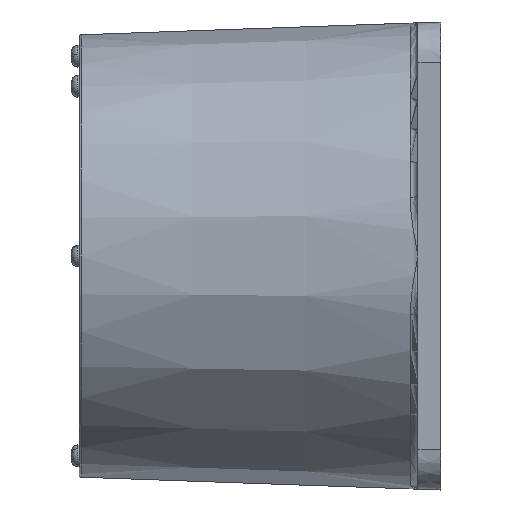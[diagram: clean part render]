
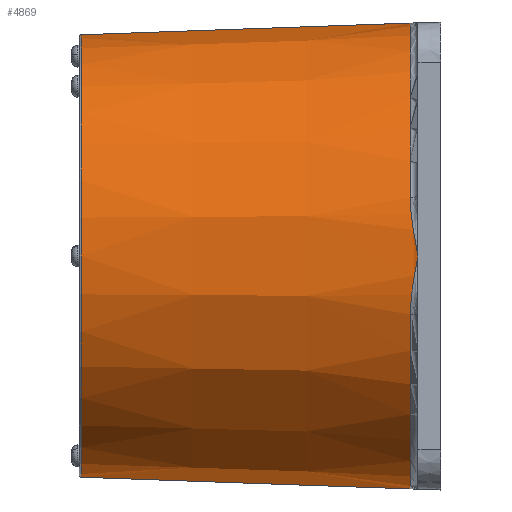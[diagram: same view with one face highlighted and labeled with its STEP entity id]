
A CAD part, left-side view. The second image highlights one B-rep face of the part: STEP entity #4869.
In plain terms, the highlighted conical face has half-angle 2.033 degrees and reference radius 58.25 mm.
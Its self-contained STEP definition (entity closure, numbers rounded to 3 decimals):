
#26 = DIRECTION ( 'NONE',  ( 0., 0., 1. ) ) ;
#300 = DIRECTION ( 'NONE',  ( 0., -1., 0. ) ) ;
#391 = CARTESIAN_POINT ( 'NONE',  ( 0., 7.629, -57.979 ) ) ;
#668 = EDGE_CURVE ( 'NONE', #4475, #5323, #2993, .T. ) ;
#734 = CARTESIAN_POINT ( 'NONE',  ( -57.379, 7.161, 8.523 ) ) ;
#866 = CARTESIAN_POINT ( 'NONE',  ( -57.862, 6.616, -4.877 ) ) ;
#930 = AXIS2_PLACEMENT_3D ( 'NONE', #2512, #5836, #3420 ) ;
#1180 = CARTESIAN_POINT ( 'NONE',  ( 0., 89.518, 0. ) ) ;
#1361 = B_SPLINE_CURVE_WITH_KNOTS ( 'NONE', 3,
 ( #1784, #1705, #6761, #4489, #3914, #3336, #6686, #3406, #4565, #734, #5649, #2800, #2944, #3376 ),
 .UNSPECIFIED., .F., .F.,
 ( 4, 2, 2, 2, 2, 2, 4 ),
 ( 0., 0.001, 0.002, 0.004, 0.007, 0.011, 0.015 ),
 .UNSPECIFIED. ) ;
#1428 = ORIENTED_EDGE ( 'NONE', *, *, #3417, .T. ) ;
#1636 = DIRECTION ( 'NONE',  ( 0., -0.999, -0.035 ) ) ;
#1705 = CARTESIAN_POINT ( 'NONE',  ( -58.046, 5.757, 0.304 ) ) ;
#1718 = CARTESIAN_POINT ( 'NONE',  ( 0., 0., 58.25 ) ) ;
#1784 = CARTESIAN_POINT ( 'NONE',  ( -58.048, 5.7, 0. ) ) ;
#1806 = CARTESIAN_POINT ( 'NONE',  ( -57.18, 7.32, -9.74 ) ) ;
#1844 = VERTEX_POINT ( 'NONE', #5249 ) ;
#1855 = ORIENTED_EDGE ( 'NONE', *, *, #3064, .F. ) ;
#1875 = EDGE_CURVE ( 'NONE', #5323, #4335, #2281, .T. ) ;
#2124 = ORIENTED_EDGE ( 'NONE', *, *, #2705, .T. ) ;
#2127 = DIRECTION ( 'NONE',  ( 0., 1., 0. ) ) ;
#2281 = B_SPLINE_CURVE_WITH_KNOTS ( 'NONE', 3,
 ( #6892, #4050, #3577, #1806, #6259, #866, #4012, #2501 ),
 .UNSPECIFIED., .F., .F.,
 ( 4, 2, 2, 4 ),
 ( 0., 0.004, 0.007, 0.015 ),
 .UNSPECIFIED. ) ;
#2293 = ORIENTED_EDGE ( 'NONE', *, *, #4936, .T. ) ;
#2501 = CARTESIAN_POINT ( 'NONE',  ( -58.048, 5.7, 0. ) ) ;
#2512 = CARTESIAN_POINT ( 'NONE',  ( 0., 0., 0. ) ) ;
#2705 = EDGE_CURVE ( 'NONE', #4335, #3854, #1361, .T. ) ;
#2782 = AXIS2_PLACEMENT_3D ( 'NONE', #1180, #300, #2880 ) ;
#2800 = CARTESIAN_POINT ( 'NONE',  ( -56.703, 7.553, 12.174 ) ) ;
#2859 = ORIENTED_EDGE ( 'NONE', *, *, #5236, .T. ) ;
#2880 = DIRECTION ( 'NONE',  ( 0., 0., -1. ) ) ;
#2944 = CARTESIAN_POINT ( 'NONE',  ( -56.427, 7.629, 13.384 ) ) ;
#2993 = CIRCLE ( 'NONE', #3570, 57.979 ) ;
#2995 = AXIS2_PLACEMENT_3D ( 'NONE', #4905, #5953, #6025 ) ;
#3064 = EDGE_CURVE ( 'NONE', #5833, #6798, #5020, .T. ) ;
#3336 = CARTESIAN_POINT ( 'NONE',  ( -57.983, 6.156, 2.441 ) ) ;
#3376 = CARTESIAN_POINT ( 'NONE',  ( -56.113, 7.629, 14.591 ) ) ;
#3406 = CARTESIAN_POINT ( 'NONE',  ( -57.824, 6.593, 4.877 ) ) ;
#3417 = EDGE_CURVE ( 'NONE', #3854, #6798, #6459, .T. ) ;
#3420 = DIRECTION ( 'NONE',  ( 0., 0., 1. ) ) ;
#3570 = AXIS2_PLACEMENT_3D ( 'NONE', #6526, #2127, #26 ) ;
#3577 = CARTESIAN_POINT ( 'NONE',  ( -56.703, 7.553, -12.174 ) ) ;
#3826 = CARTESIAN_POINT ( 'NONE',  ( 0., 89.518, 55.073 ) ) ;
#3854 = VERTEX_POINT ( 'NONE', #4283 ) ;
#3914 = CARTESIAN_POINT ( 'NONE',  ( -58.018, 5.987, 1.527 ) ) ;
#4012 = CARTESIAN_POINT ( 'NONE',  ( -58.031, 6.161, -2.445 ) ) ;
#4050 = CARTESIAN_POINT ( 'NONE',  ( -56.427, 7.629, -13.384 ) ) ;
#4283 = CARTESIAN_POINT ( 'NONE',  ( -56.113, 7.629, 14.591 ) ) ;
#4319 = CARTESIAN_POINT ( 'NONE',  ( 0., 7.629, 57.979 ) ) ;
#4335 = VERTEX_POINT ( 'NONE', #5571 ) ;
#4475 = VERTEX_POINT ( 'NONE', #391 ) ;
#4487 = LINE ( 'NONE', #6587, #7044 ) ;
#4489 = CARTESIAN_POINT ( 'NONE',  ( -58.027, 5.93, 1.222 ) ) ;
#4565 = CARTESIAN_POINT ( 'NONE',  ( -57.701, 6.798, 6.092 ) ) ;
#4869 = ADVANCED_FACE ( 'NONE', ( #6174 ), #5329, .T. ) ;
#4905 = CARTESIAN_POINT ( 'NONE',  ( 0., 7.629, 0. ) ) ;
#4936 = EDGE_CURVE ( 'NONE', #5833, #1844, #5901, .T. ) ;
#5020 = LINE ( 'NONE', #1718, #5092 ) ;
#5092 = VECTOR ( 'NONE', #6139, 1000. ) ;
#5236 = EDGE_CURVE ( 'NONE', #1844, #4475, #4487, .T. ) ;
#5249 = CARTESIAN_POINT ( 'NONE',  ( 0., 89.518, -55.073 ) ) ;
#5323 = VERTEX_POINT ( 'NONE', #6758 ) ;
#5329 = CONICAL_SURFACE ( 'NONE', #930, 58.25, 0.035 ) ;
#5571 = CARTESIAN_POINT ( 'NONE',  ( -58.048, 5.7, 0. ) ) ;
#5649 = CARTESIAN_POINT ( 'NONE',  ( -57.18, 7.32, 9.74 ) ) ;
#5833 = VERTEX_POINT ( 'NONE', #3826 ) ;
#5836 = DIRECTION ( 'NONE',  ( 0., -1., 0. ) ) ;
#5851 = EDGE_LOOP ( 'NONE', ( #1855, #2293, #2859, #5868, #6728, #2124, #1428 ) ) ;
#5868 = ORIENTED_EDGE ( 'NONE', *, *, #668, .T. ) ;
#5901 = CIRCLE ( 'NONE', #2782, 55.073 ) ;
#5953 = DIRECTION ( 'NONE',  ( 0., 1., 0. ) ) ;
#6025 = DIRECTION ( 'NONE',  ( 0., 0., 1. ) ) ;
#6139 = DIRECTION ( 'NONE',  ( 0., -0.999, 0.035 ) ) ;
#6174 = FACE_OUTER_BOUND ( 'NONE', #5851, .T. ) ;
#6259 = CARTESIAN_POINT ( 'NONE',  ( -57.379, 7.161, -8.523 ) ) ;
#6459 = CIRCLE ( 'NONE', #2995, 57.979 ) ;
#6526 = CARTESIAN_POINT ( 'NONE',  ( 0., 7.629, 0. ) ) ;
#6587 = CARTESIAN_POINT ( 'NONE',  ( 0., 0., -58.25 ) ) ;
#6686 = CARTESIAN_POINT ( 'NONE',  ( -57.951, 6.268, 3.051 ) ) ;
#6728 = ORIENTED_EDGE ( 'NONE', *, *, #1875, .T. ) ;
#6758 = CARTESIAN_POINT ( 'NONE',  ( -56.113, 7.629, -14.591 ) ) ;
#6761 = CARTESIAN_POINT ( 'NONE',  ( -58.041, 5.815, 0.611 ) ) ;
#6798 = VERTEX_POINT ( 'NONE', #4319 ) ;
#6892 = CARTESIAN_POINT ( 'NONE',  ( -56.113, 7.629, -14.591 ) ) ;
#7044 = VECTOR ( 'NONE', #1636, 1000. ) ;
